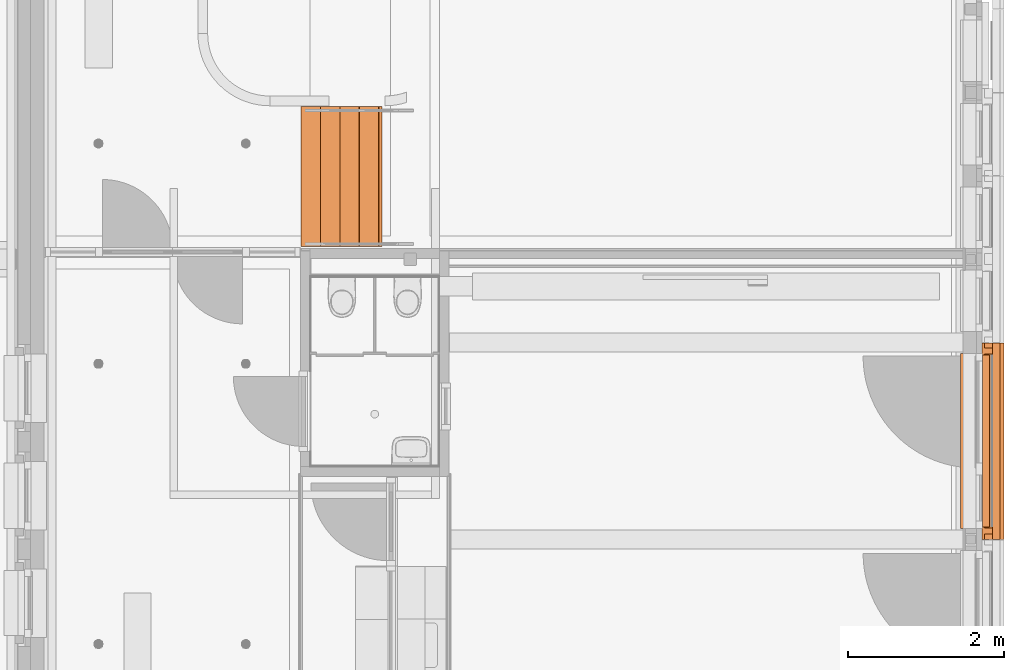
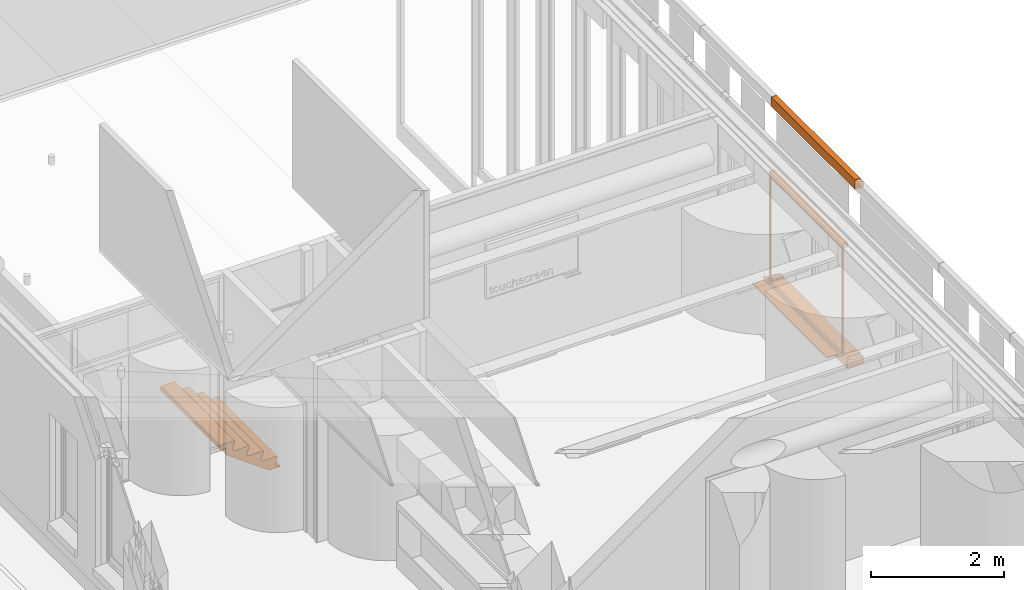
# One storey, part 105 of 128: 5 proxies.
"""IFC2X3 building model written with IfcOpenShell, lengths in millimetres."""

import ifcopenshell
import ifcopenshell.guid

model = None  # the IFC model being written
_history = None  # IfcOwnerHistory: only IFC2X3 demands one
_inside = {}  # id of a spatial element -> (the spatial element, [elements in it])
_under = {}  # id of a project, library or spatial element -> (it, [spatial elements below it])
_declared = {}  # id of a project -> (the project, [libraries it declares])
_typed = {}  # id of a type object -> (the type object, [elements of that type])
_made_of = {}  # id of a material, layer set ... -> (it, [elements and type objects made of it])


def new_model(schema):
    """Start an empty IFC model of exactly this schema.

    Asked for "IFC4X3", IfcOpenShell would pick the latest addendum, in which some entities
    have other attributes; the version numbers below select the first issue.
    IFC2X3 requires an IfcOwnerHistory on every rooted entity: one is made here for all.
    """
    global model, _history
    if schema == "IFC4X3":
        model = ifcopenshell.file(schema_version=(4, 3, 0, 0))
    else:
        model = ifcopenshell.file(schema=schema)
    _inside.clear()
    _under.clear()
    _declared.clear()
    _typed.clear()
    _made_of.clear()
    _history = None
    if model.schema == "IFC2X3":
        org = make("IfcOrganization", Name="unknown")
        user = make(
            "IfcPersonAndOrganization",
            ThePerson=make("IfcPerson", FamilyName="unknown"),
            TheOrganization=org,
        )
        app = make(
            "IfcApplication",
            ApplicationDeveloper=org,
            Version="unknown",
            ApplicationFullName="unknown",
            ApplicationIdentifier="unknown",
        )
        _history = make(
            "IfcOwnerHistory",
            OwningUser=user,
            OwningApplication=app,
            ChangeAction="ADDED",
            CreationDate=0,
        )
    return model


def make(cls, **values):
    """One entity of the class cls with the attributes given. An attribute that is None is left unset."""
    return model.create_entity(
        cls, **{name: value for name, value in values.items() if value is not None}
    )


def entity(cls, *values):
    """Any entity or typed value of the class cls, its attributes in the order of the schema. None: left unset."""
    e = model.create_entity(cls)
    for i, value in enumerate(values):
        if value is not None:
            e[i] = value
    return e


def rooted(cls, **values):
    """An entity with a GlobalId (a new one), such as an element, a storey or a relation."""
    return make(cls, GlobalId=ifcopenshell.guid.new(), OwnerHistory=_history, **values)


def si_unit(unit_type, name, prefix=None):
    """IfcSIUnit, for example si_unit("LENGTHUNIT", "METRE", prefix="MILLI")."""
    return make("IfcSIUnit", UnitType=unit_type, Prefix=prefix, Name=name)


def converted_unit(unit_type, name, factor, base, dimensions=None, offset=None):
    """IfcConversionBasedUnit, such as the inch: factor (a typed value) times the base unit."""
    return make(
        "IfcConversionBasedUnit"
        if offset is None
        else "IfcConversionBasedUnitWithOffset",
        ConversionOffset=offset,
        Dimensions=None
        if dimensions is None
        else entity("IfcDimensionalExponents", *dimensions),
        UnitType=unit_type,
        Name=name,
        ConversionFactor=make(
            "IfcMeasureWithUnit", ValueComponent=factor, UnitComponent=base
        ),
    )


def derived_unit(unit_type, elements):
    """IfcDerivedUnit: a product of units, each with its exponent."""
    return make(
        "IfcDerivedUnit",
        Elements=[
            make("IfcDerivedUnitElement", Unit=unit, Exponent=power)
            for unit, power in elements
        ],
        UnitType=unit_type,
    )


def assignment(units):
    """IfcUnitAssignment: the units of a project."""
    return None if units is None else make("IfcUnitAssignment", Units=units)


def point(xyz):
    """IfcCartesianPoint."""
    return None if xyz is None else make("IfcCartesianPoint", Coordinates=xyz)


def direction(xyz):
    """IfcDirection."""
    return None if xyz is None else make("IfcDirection", DirectionRatios=xyz)


def frame(location, z_axis=None, x_axis=None):
    """IfcAxis2Placement3D, a coordinate frame: its origin and axes. An axis left out is left unset."""
    return make(
        "IfcAxis2Placement3D",
        Location=point(location),
        Axis=direction(z_axis),
        RefDirection=direction(x_axis),
    )


def frame_2d(location, x_axis=None):
    """IfcAxis2Placement2D, a coordinate frame in the plane: its origin and x axis."""
    return make(
        "IfcAxis2Placement2D", Location=point(location), RefDirection=direction(x_axis)
    )


def origin():
    """The frame at (0, 0, 0) with its axes left unset."""
    return frame((0.0, 0.0, 0.0))


def origin_2d_with_axis():
    """The frame at (0, 0) in the plane with the x axis (1, 0) written out."""
    return frame_2d((0.0, 0.0), x_axis=(1.0, 0.0))


def place(relative_to, where):
    """IfcLocalPlacement: puts the frame where relative to a parent placement (None: the world)."""
    return make(
        "IfcLocalPlacement", PlacementRelTo=relative_to, RelativePlacement=where
    )


def context(
    kind, dimensions, precision=None, world=None, true_north=None, identifier=None
):
    """IfcGeometricRepresentationContext, for example the 3D "Model" context."""
    return make(
        "IfcGeometricRepresentationContext",
        ContextIdentifier=identifier,
        ContextType=kind,
        CoordinateSpaceDimension=dimensions,
        Precision=precision,
        WorldCoordinateSystem=world,
        TrueNorth=true_north,
    )


def subcontext(parent, identifier, kind, view, scale=None):
    """IfcGeometricRepresentationSubContext, for example "Body" below "Model"."""
    return make(
        "IfcGeometricRepresentationSubContext",
        ContextIdentifier=identifier,
        ContextType=kind,
        ParentContext=parent,
        TargetScale=scale,
        TargetView=view,
    )


def project(units=None, contexts=None):
    """IfcProject with its units and contexts."""
    return rooted(
        "IfcProject",
        Name="project",
        RepresentationContexts=contexts,
        UnitsInContext=assignment(units),
    )


def spatial(cls, under=None, at=None, **own):
    """A site, building, storey or space (cls), placed at a placement, below another one or the project."""
    s = rooted(cls, ObjectPlacement=at, **own)
    if under is not None:
        _under.setdefault(under.id(), (under, []))[1].append(s)
    return s


def polyline(points):
    """IfcPolyline through the points."""
    return make("IfcPolyline", Points=[point(p) for p in points])


def circle_curve(where, radius):
    """IfcCircle in the frame where."""
    return make("IfcCircle", Position=where, Radius=radius)


def parameter(value):
    """IfcParameterValue: where a trimmed curve begins or ends, as a parameter of its basis curve."""
    return model.create_entity("IfcParameterValue", value)


def trimmed(basis, trim1, trim2, sense, master):
    """IfcTrimmedCurve: the piece of a basis curve between two trims."""
    return make(
        "IfcTrimmedCurve",
        BasisCurve=basis,
        Trim1=trim1,
        Trim2=trim2,
        SenseAgreement=sense,
        MasterRepresentation=master,
    )


def segment(curve, same_sense, transition):
    """IfcCompositeCurveSegment."""
    return make(
        "IfcCompositeCurveSegment",
        Transition=transition,
        SameSense=same_sense,
        ParentCurve=curve,
    )


def composite_curve(segments, self_intersect=None):
    """IfcCompositeCurve: segments joined end to end."""
    return make("IfcCompositeCurve", Segments=segments, SelfIntersect=self_intersect)


def profile(cls, at=None, kind="AREA", **sizes):
    """A parametric profile (cls). Its sizes go by their IFC names, for example OverallWidth=200.0."""
    return make(cls, ProfileType=kind, Position=at, **sizes)


def rectangle(**sizes):
    """IfcRectangleProfileDef."""
    return profile("IfcRectangleProfileDef", **sizes)


def outline(outer, holes=None, kind="AREA"):
    """IfcArbitraryClosedProfileDef: a profile drawn as a closed curve; with holes, ...WithVoids."""
    if holes is None:
        return make("IfcArbitraryClosedProfileDef", ProfileType=kind, OuterCurve=outer)
    return make(
        "IfcArbitraryProfileDefWithVoids",
        ProfileType=kind,
        OuterCurve=outer,
        InnerCurves=holes,
    )


def extrude(swept, where, along, depth):
    """IfcExtrudedAreaSolid: the profile swept, set in the frame where, extruded along a direction by depth."""
    return make(
        "IfcExtrudedAreaSolid",
        SweptArea=swept,
        Position=where,
        ExtrudedDirection=direction(along),
        Depth=depth,
    )


def shape(context_of_items, identifier, shape_type, items):
    """IfcShapeRepresentation: the items that make up one representation, for example the "Body"."""
    return make(
        "IfcShapeRepresentation",
        ContextOfItems=context_of_items,
        RepresentationIdentifier=identifier,
        RepresentationType=shape_type,
        Items=items,
    )


def source(mapping_origin, context_of_items, identifier, shape_type, items):
    """IfcRepresentationMap: a shape defined once, which mapped items show again and again."""
    return make(
        "IfcRepresentationMap",
        MappingOrigin=mapping_origin,
        MappedRepresentation=shape(context_of_items, identifier, shape_type, items),
    )


def transform(
    local_origin,
    x_axis=None,
    y_axis=None,
    z_axis=None,
    scale=None,
    scale2=None,
    scale3=None,
    uniform=True,
):
    """IfcCartesianTransformationOperator3D, or its non-uniform kind. x_axis, y_axis, z_axis: its Axis1, 2, 3."""
    if uniform:
        return make(
            "IfcCartesianTransformationOperator3D",
            Axis1=direction(x_axis),
            Axis2=direction(y_axis),
            LocalOrigin=point(local_origin),
            Scale=scale,
            Axis3=direction(z_axis),
        )
    return make(
        "IfcCartesianTransformationOperator3DnonUniform",
        Axis1=direction(x_axis),
        Axis2=direction(y_axis),
        LocalOrigin=point(local_origin),
        Scale=scale,
        Axis3=direction(z_axis),
        Scale2=scale2,
        Scale3=scale3,
    )


def mapped(mapping_source, mapping_target):
    """IfcMappedItem: shows the shape of a source again, moved by a transform."""
    return make(
        "IfcMappedItem", MappingSource=mapping_source, MappingTarget=mapping_target
    )


def material(Name=None, Category=None):
    """IfcMaterial."""
    return make("IfcMaterial", Name=Name, Category=Category)


def material_list(materials):
    """IfcMaterialList."""
    return make("IfcMaterialList", Materials=materials)


def made_of(thing, what):
    """Note that an element or type object is made of a material, layer set ...; save() writes the relation."""
    if what is not None:
        _made_of.setdefault(what.id(), (what, []))[1].append(thing)
    return thing


def type_object(cls, material=None, **own):
    """A type object (cls), such as IfcWallType, which elements share."""
    return made_of(rooted(cls, **own), material)


def type_shapes(of_type, sources):
    """Give a type object the sources (RepresentationMaps) that its elements show as mapped items."""
    of_type.RepresentationMaps = sources


def element(
    cls,
    number,
    at=None,
    inside=None,
    cuts=None,
    type_object=None,
    material=None,
    context=None,
    identifier="Body",
    shape_type=None,
    held_by="IfcProductDefinitionShape",
    body=None,
    shapes=None,
    **own,
):
    """One element of the class cls, such as IfcWall. Its Tag is "e" and its number.

    at: its placement. inside: the storey or other place that contains it. cuts: it is an
    opening in that element (IfcRelVoidsElement). A single representation is given by context,
    identifier, shape_type and body (its items); several are given by shapes. held_by: the class
    of the entity that holds the representations. save() writes the other relations.
    """
    e = rooted(cls, Tag="e%d" % number, ObjectPlacement=at, **own)
    if body is not None:
        shapes = [shape(context, identifier, shape_type, body)]
    if shapes is not None:
        e.Representation = make(held_by, Representations=shapes)
    if inside is not None:
        _inside.setdefault(inside.id(), (inside, []))[1].append(e)
    if cuts is not None:
        rooted(
            "IfcRelVoidsElement", RelatingBuildingElement=cuts, RelatedOpeningElement=e
        )
    if type_object is not None:
        _typed.setdefault(type_object.id(), (type_object, []))[1].append(e)
    return made_of(e, material)


def aggregate(whole, parts):
    """IfcRelAggregates: a whole, such as a stair, and the parts it consists of."""
    return rooted("IfcRelAggregates", RelatingObject=whole, RelatedObjects=parts)


def save(model, path):
    """Write the relations noted so far, then the file.

    IfcRelAggregates (storeys below a building ...), IfcRelContainedInSpatialStructure (elements
    in a storey), IfcRelDefinesByType, IfcRelAssociatesMaterial and IfcRelDeclares: one each for
    every whole, place, type object, material and project.
    """
    for whole, parts in _under.values():
        aggregate(whole, parts)
    for where, things in _inside.values():
        rooted(
            "IfcRelContainedInSpatialStructure",
            RelatedElements=things,
            RelatingStructure=where,
        )
    for kind, things in _typed.values():
        rooted("IfcRelDefinesByType", RelatedObjects=things, RelatingType=kind)
    for what, things in _made_of.values():
        rooted("IfcRelAssociatesMaterial", RelatedObjects=things, RelatingMaterial=what)
    for by, libraries in _declared.values():
        rooted("IfcRelDeclares", RelatingContext=by, RelatedDefinitions=libraries)
    model.write(path)


model = new_model("IFC2X3")

# Units and contexts
model_context = context("Model", 3, precision=0.01, world=origin(), true_north=direction((6.123031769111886e-17, 1.0)))
body_context = subcontext(model_context, "Body", "Model", "MODEL_VIEW")
ifc_project = project(units=[si_unit("LENGTHUNIT", "METRE", prefix="MILLI"), si_unit("AREAUNIT", "SQUARE_METRE"), si_unit("VOLUMEUNIT", "CUBIC_METRE"), converted_unit("PLANEANGLEUNIT", "DEGREE", entity("IfcRatioMeasure", 0.017453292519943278), si_unit("PLANEANGLEUNIT", "RADIAN"), dimensions=[0, 0, 0, 0, 0, 0, 0]), si_unit("MASSUNIT", "GRAM", prefix="KILO"), derived_unit("MASSDENSITYUNIT", [(si_unit("MASSUNIT", "GRAM", prefix="KILO"), 1), (si_unit("LENGTHUNIT", "METRE"), -3)]), derived_unit("IONCONCENTRATIONUNIT", [(si_unit("MASSUNIT", "GRAM", prefix="KILO"), 1), (si_unit("LENGTHUNIT", "METRE"), -3)]), derived_unit("MOMENTOFINERTIAUNIT", [(si_unit("LENGTHUNIT", "METRE"), 4)]), si_unit("TIMEUNIT", "SECOND"), si_unit("FREQUENCYUNIT", "HERTZ"), si_unit("THERMODYNAMICTEMPERATUREUNIT", "DEGREE_CELSIUS"), derived_unit("THERMALTRANSMITTANCEUNIT", [(si_unit("MASSUNIT", "GRAM", prefix="KILO"), 1), (si_unit("THERMODYNAMICTEMPERATUREUNIT", "KELVIN"), -1), (si_unit("TIMEUNIT", "SECOND"), -3)]), derived_unit("THERMALCONDUCTANCEUNIT", [(si_unit("MASSUNIT", "GRAM", prefix="KILO"), 1), (si_unit("THERMODYNAMICTEMPERATUREUNIT", "KELVIN"), -1), (si_unit("TIMEUNIT", "SECOND"), -3), (si_unit("LENGTHUNIT", "METRE"), 1)]), derived_unit("VOLUMETRICFLOWRATEUNIT", [(si_unit("LENGTHUNIT", "METRE"), 3), (si_unit("TIMEUNIT", "SECOND"), -1)]), derived_unit("MASSFLOWRATEUNIT", [(si_unit("MASSUNIT", "GRAM", prefix="KILO"), 1), (si_unit("TIMEUNIT", "SECOND"), -1)]), derived_unit("ROTATIONALFREQUENCYUNIT", [(si_unit("TIMEUNIT", "SECOND"), -1)]), si_unit("ELECTRICCURRENTUNIT", "AMPERE"), si_unit("ELECTRICVOLTAGEUNIT", "VOLT"), si_unit("POWERUNIT", "WATT"), si_unit("FORCEUNIT", "NEWTON", prefix="KILO"), si_unit("ILLUMINANCEUNIT", "LUX"), si_unit("LUMINOUSFLUXUNIT", "LUMEN"), si_unit("LUMINOUSINTENSITYUNIT", "CANDELA"), derived_unit("USERDEFINED", [(si_unit("MASSUNIT", "GRAM", prefix="KILO"), -1), (si_unit("LENGTHUNIT", "METRE"), -2), (si_unit("TIMEUNIT", "SECOND"), 3), (si_unit("LUMINOUSFLUXUNIT", "LUMEN"), 1)]), derived_unit("USERDEFINED", [(si_unit("MASSUNIT", "GRAM", prefix="KILO"), 1), (si_unit("TIMEUNIT", "SECOND"), -3), (si_unit("LENGTHUNIT", "METRE"), 3), (si_unit("ELECTRICCURRENTUNIT", "AMPERE"), -2)]), derived_unit("SOUNDPOWERUNIT", [(si_unit("MASSUNIT", "GRAM", prefix="KILO"), 1), (si_unit("TIMEUNIT", "SECOND"), -3), (si_unit("LENGTHUNIT", "METRE"), 2)]), derived_unit("SOUNDPRESSUREUNIT", [(si_unit("MASSUNIT", "GRAM", prefix="KILO"), 1), (si_unit("LENGTHUNIT", "METRE"), -1), (si_unit("TIMEUNIT", "SECOND"), -2)]), derived_unit("LINEARVELOCITYUNIT", [(si_unit("LENGTHUNIT", "METRE"), 1), (si_unit("TIMEUNIT", "SECOND"), -1)]), si_unit("PRESSUREUNIT", "PASCAL"), derived_unit("USERDEFINED", [(si_unit("MASSUNIT", "GRAM", prefix="KILO"), 1), (si_unit("LENGTHUNIT", "METRE"), -2), (si_unit("TIMEUNIT", "SECOND"), -2)]), derived_unit("LINEARFORCEUNIT", [(si_unit("MASSUNIT", "GRAM", prefix="KILO"), 1), (si_unit("TIMEUNIT", "SECOND"), -2)]), derived_unit("PLANARFORCEUNIT", [(si_unit("MASSUNIT", "GRAM", prefix="KILO"), 1), (si_unit("LENGTHUNIT", "METRE"), -1), (si_unit("TIMEUNIT", "SECOND"), -2)]), derived_unit("SPECIFICHEATCAPACITYUNIT", [(si_unit("THERMODYNAMICTEMPERATUREUNIT", "KELVIN"), -1), (si_unit("LENGTHUNIT", "METRE"), 2), (si_unit("TIMEUNIT", "SECOND"), -2)]), derived_unit("HEATINGVALUEUNIT", [(si_unit("LENGTHUNIT", "METRE"), 2), (si_unit("TIMEUNIT", "SECOND"), -2)]), derived_unit("VAPORPERMEABILITYUNIT", [(si_unit("LENGTHUNIT", "METRE"), -1), (si_unit("TIMEUNIT", "SECOND"), 1)]), derived_unit("DYNAMICVISCOSITYUNIT", [(si_unit("MASSUNIT", "GRAM", prefix="KILO"), 1), (si_unit("TIMEUNIT", "SECOND"), -1), (si_unit("LENGTHUNIT", "METRE"), -1)]), derived_unit("THERMALEXPANSIONCOEFFICIENTUNIT", [(si_unit("THERMODYNAMICTEMPERATUREUNIT", "KELVIN"), -1)]), derived_unit("MODULUSOFELASTICITYUNIT", [(si_unit("MASSUNIT", "GRAM", prefix="KILO"), 1), (si_unit("LENGTHUNIT", "METRE"), -1), (si_unit("TIMEUNIT", "SECOND"), -2)]), derived_unit("ISOTHERMALMOISTURECAPACITYUNIT", [(si_unit("LENGTHUNIT", "METRE"), 3), (si_unit("MASSUNIT", "GRAM", prefix="KILO"), -1)]), derived_unit("MOISTUREDIFFUSIVITYUNIT", [(si_unit("TIMEUNIT", "SECOND"), -1), (si_unit("LENGTHUNIT", "METRE"), 2)])], contexts=[model_context])

# Site, building, storey, space
site_placement = place(None, frame((0.0, 300.0, 0.0)))
site = spatial("IfcSite", under=ifc_project, at=site_placement, Name="<Kadastrale nummers>", CompositionType="ELEMENT")
building_placement = place(site_placement, origin())
building = spatial("IfcBuilding", under=site, at=building_placement, CompositionType="ELEMENT")
storey_placement = place(building_placement, frame((0.0, 0.0, 3560.0000331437)))
storey = spatial("IfcBuildingStorey", under=building, at=storey_placement, Name="01 eerste verdieping", CompositionType="ELEMENT", Elevation=3560.0000331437)
space_1_placement = place(storey_placement, origin())
space_1 = spatial("IfcSpace", under=storey, at=space_1_placement, Name="1.12", CompositionType="ELEMENT", InteriorOrExteriorSpace="INTERNAL")

# Proxies
ifc_material_1 = material(Name="ISR_Beton_prefab")
ifc_material_2 = material(Name="f2_beton prefab")
ifc_material_list_1 = material_list([ifc_material_1, ifc_material_2])
building_element_proxy_type_1 = type_object("IfcBuildingElementProxyType", Name="NLRS_24_GM_LB_betontrap zonder bomen 04 treden_gen_ASN:betontrap zonder bomen gen b 1100", PredefinedType="NOTDEFINED", material=ifc_material_list_1)
shared_shape_1 = source(origin(), body_context, "Body", "SweptSolid", [
    extrude(outline(composite_curve([segment(polyline([(-106.18149972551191, -65.10260744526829), (-80.76395109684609, -65.10260744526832)]), True, "CONTINUOUS"), segment(trimmed(circle_curve(frame_2d((-80.76395109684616, -55.10260744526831), x_axis=(-0.9168728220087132, -0.3991794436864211)), 10.0), [parameter(66.47310844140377)], [parameter(90.00000000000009)], True, "PARAMETER"), True, "CONTINUOUS"), segment(polyline([(-76.77215665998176, -64.27133566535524), (15.145764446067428, -27.518257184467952)]), True, "CONTINUOUS"), segment(trimmed(circle_curve(frame_2d((28.822905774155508, -65.10260744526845), x_axis=(0.0, 1.0)), 39.995594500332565), [parameter(269.9999999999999)], [parameter(19.99671074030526)], True, "PARAMETER"), False, "CONTINUOUS"), segment(polyline([(68.81850027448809, -65.10260744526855), (68.81850027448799, -105.10260744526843)]), True, "CONTINUOUS"), segment(polyline([(68.81850027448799, -105.10260744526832), (148.8185002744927, -105.1026074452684)]), True, "CONTINUOUS"), segment(polyline([(148.8185002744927, -105.10260744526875), (148.8185002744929, 15.315667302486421)]), True, "CONTINUOUS"), segment(polyline([(148.8185002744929, 15.315667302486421), (98.02384084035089, 84.89739255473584)]), True, "CONTINUOUS"), segment(polyline([(98.02384084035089, 84.89739255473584), (-28.68149972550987, 84.89739255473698)]), True, "CONTINUOUS"), segment(polyline([(-28.68149972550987, 84.89739255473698), (-28.68149972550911, 184.89739255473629)]), True, "CONTINUOUS"), segment(polyline([(-28.68149972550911, 184.89739255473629), (-113.6814997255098, 184.89739255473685)]), True, "CONTINUOUS"), segment(polyline([(-113.6814997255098, 184.89739255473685), (-113.68149972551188, -57.60260744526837)]), True, "CONTINUOUS"), segment(trimmed(circle_curve(frame_2d((-106.181499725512, -57.602607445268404), x_axis=(-1.0, 0.0)), 7.5), [parameter(359.99999999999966)], [parameter(89.99999999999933)], True, "PARAMETER"), True, "CONTINUOUS")], self_intersect=False)), frame((-900.0, 815.1026074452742, 616.3185002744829), z_axis=(1.0, 0.0, 0.0), x_axis=(0.0, 0.0, -1.0)), (0.0, 0.0, 1.0), 1799.9999999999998),
    extrude(outline(composite_curve([segment(polyline([(-97.17951298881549, -66.39601429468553), (-71.76196436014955, -66.39601429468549)]), True, "CONTINUOUS"), segment(trimmed(circle_curve(frame_2d((-71.7619643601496, -56.39601429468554), x_axis=(0.0, 1.0)), 10.0), [parameter(180.0000000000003)], [parameter(203.52689155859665)], True, "PARAMETER"), True, "CONTINUOUS"), segment(polyline([(-67.77016992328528, -65.56474251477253), (24.147751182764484, -28.81166403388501)]), True, "CONTINUOUS"), segment(trimmed(circle_curve(frame_2d((37.82489251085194, -66.39601429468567), x_axis=(0.0, 1.0)), 39.995594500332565), [parameter(269.99999999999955)], [parameter(19.996710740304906)], True, "PARAMETER"), False, "CONTINUOUS"), segment(polyline([(77.82048701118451, -66.39601429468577), (77.82048701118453, -106.39601429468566)]), True, "CONTINUOUS"), segment(polyline([(77.82048701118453, -106.39601429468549), (157.82048701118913, -106.39601429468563)]), True, "CONTINUOUS"), segment(polyline([(157.820487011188, -106.39601429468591), (157.8204870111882, 14.022260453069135)]), True, "CONTINUOUS"), segment(polyline([(157.8204870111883, 14.022260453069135), (-24.679512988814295, 264.0222604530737)]), True, "CONTINUOUS"), segment(polyline([(-24.67951298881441, 264.0222604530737), (-24.679512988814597, 143.60398570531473)]), True, "CONTINUOUS"), segment(polyline([(-24.679512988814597, 143.60398570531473), (-104.67951298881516, 143.6039857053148)]), True, "CONTINUOUS"), segment(polyline([(-104.67951298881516, 143.6039857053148), (-104.67951298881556, -58.896014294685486)]), True, "CONTINUOUS"), segment(trimmed(circle_curve(frame_2d((-97.17951298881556, -58.896014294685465), x_axis=(0.0, 1.0)), 7.5), [parameter(90.00000000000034)], [parameter(179.99999999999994)], True, "PARAMETER"), True, "CONTINUOUS")], self_intersect=False)), frame((-900.0, 566.396014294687, 442.820487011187), z_axis=(1.0, 0.0, 0.0), x_axis=(0.0, 0.0, -1.0)), (0.0, 0.0, 1.0), 1800.0000000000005),
    extrude(outline(composite_curve([segment(polyline([(-97.17951298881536, -66.39601429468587), (-71.76196436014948, -66.39601429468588)]), True, "CONTINUOUS"), segment(trimmed(circle_curve(frame_2d((-71.76196436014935, -56.396014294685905), x_axis=(0.0, 1.0)), 10.0), [parameter(180.0000000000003)], [parameter(203.52689155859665)], True, "PARAMETER"), True, "CONTINUOUS"), segment(polyline([(-67.7701699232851, -65.56474251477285), (24.14775118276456, -28.811664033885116)]), True, "CONTINUOUS"), segment(trimmed(circle_curve(frame_2d((37.824892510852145, -66.39601429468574), x_axis=(0.0, 1.0)), 39.995594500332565), [parameter(269.99999999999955)], [parameter(19.996710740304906)], True, "PARAMETER"), False, "CONTINUOUS"), segment(polyline([(77.82048701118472, -66.39601429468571), (77.82048701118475, -106.39601429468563)]), True, "CONTINUOUS"), segment(polyline([(77.82048701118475, -106.39601429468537), (157.8204870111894, -106.39601429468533)]), True, "CONTINUOUS"), segment(polyline([(157.82048701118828, -106.39601429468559), (157.8204870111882, 14.02226045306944)]), True, "CONTINUOUS"), segment(polyline([(157.82048701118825, 14.02226045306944), (-24.679512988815, 264.0222604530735)]), True, "CONTINUOUS"), segment(polyline([(-24.679512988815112, 264.0222604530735), (-24.679512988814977, 143.60398570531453)]), True, "CONTINUOUS"), segment(polyline([(-24.679512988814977, 143.60398570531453), (-104.67951298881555, 143.60398570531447)]), True, "CONTINUOUS"), segment(polyline([(-104.67951298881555, 143.60398570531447), (-104.67951298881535, -58.89601429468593)]), True, "CONTINUOUS"), segment(trimmed(circle_curve(frame_2d((-97.17951298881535, -58.8960142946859), x_axis=(0.0, 1.0)), 7.5), [parameter(90.00000000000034)], [parameter(179.99999999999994)], True, "PARAMETER"), True, "CONTINUOUS")], self_intersect=False)), frame((-900.0, 316.39601429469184, 260.32048701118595), z_axis=(1.0, 0.0, 0.0), x_axis=(0.0, 0.0, -1.0)), (0.0, 0.0, 1.0), 1800.0000000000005),
    extrude(outline(composite_curve([segment(polyline([(-88.84617965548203, -72.1037768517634), (-63.4286310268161, -72.10377685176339)]), True, "CONTINUOUS"), segment(trimmed(circle_curve(frame_2d((-63.42863102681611, -62.10377685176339), x_axis=(-0.916872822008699, -0.39917944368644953)), 10.0), [parameter(66.47310844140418)], [parameter(90.00000000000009)], True, "PARAMETER"), True, "CONTINUOUS"), segment(polyline([(-59.43683658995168, -71.27250507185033), (32.48108451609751, -34.51942659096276)]), True, "CONTINUOUS"), segment(trimmed(circle_curve(frame_2d((46.158225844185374, -72.1037768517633), x_axis=(0.0, 1.0)), 39.995594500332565), [parameter(269.9999999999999)], [parameter(19.996710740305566)], True, "PARAMETER"), False, "CONTINUOUS"), segment(polyline([(86.15382034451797, -72.1037768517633), (86.15382034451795, -112.10377685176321)]), True, "CONTINUOUS"), segment(polyline([(86.15382034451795, -112.10377685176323), (116.15382034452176, -112.10377685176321)]), True, "CONTINUOUS"), segment(polyline([(116.15382034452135, -112.103776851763), (116.15382034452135, 76.80764858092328)]), True, "CONTINUOUS"), segment(polyline([(116.15382034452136, 76.80764858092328), (-16.34617965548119, 258.3144978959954)]), True, "CONTINUOUS"), segment(polyline([(-16.34617965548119, 258.3144978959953), (-16.346179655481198, 137.89622314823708)]), True, "CONTINUOUS"), segment(polyline([(-16.346179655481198, 137.89622314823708), (-96.34617965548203, 137.89622314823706)]), True, "CONTINUOUS"), segment(polyline([(-96.34617965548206, 137.89622314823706), (-96.34617965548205, -64.60377685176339)]), True, "CONTINUOUS"), segment(trimmed(circle_curve(frame_2d((-88.84617965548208, -64.6037768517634), x_axis=(-1.0, 0.0)), 7.5), [parameter(2.544443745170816e-13)], [parameter(89.99999999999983)], True, "PARAMETER"), True, "CONTINUOUS")], self_intersect=False)), frame((-900.0, 72.10377685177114, 86.15382034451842), z_axis=(1.0, 0.0, 0.0), x_axis=(0.0, 0.0, -1.0)), (0.0, 0.0, 1.0), 1800.0000000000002),
])
type_shapes(building_element_proxy_type_1, [shared_shape_1])
proxy_1_placement = place(space_1_placement, frame((41000.0, 31960.0, -639.9999981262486), z_axis=(0.0, 0.0, 1.0), x_axis=(0.0, 1.0, 0.0)))
element("IfcBuildingElementProxy", 1, at=proxy_1_placement, inside=space_1, type_object=building_element_proxy_type_1, material=ifc_material_list_1, Name="NLRS_24_GM_LB_betontrap zonder bomen 04 treden_gen_ASN:betontrap zonder bomen gen b 1100", ObjectType="NLRS_24_GM_LB_betontrap zonder bomen 04 treden_gen_ASN:betontrap zonder bomen gen b 1100", context=body_context, shape_type="MappedRepresentation", body=[
    mapped(shared_shape_1, transform((0.0, 0.0, 0.0), scale=1.0)),
])
building_element_proxy_type_2 = type_object("IfcBuildingElementProxyType", Name="29_DAT_Prefab betonnen waterslag lang:22", PredefinedType="NOTDEFINED", material=ifc_material_1)
shared_shape_2 = source(origin(), body_context, "Body", "SweptSolid", [
    extrude(outline(polyline([(-16.052237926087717, -115.0), (26.113434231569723, -115.0), (5.9910416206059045, 115.0), (-16.052237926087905, 115.0), (-16.052237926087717, -115.0)])), frame((2377.0, 75.0, -16.05223792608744), z_axis=(1.0, 0.0, 0.0), x_axis=(0.0, 0.0, -1.0)), (0.0, 0.0, 1.0), 79.99999999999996),
    extrude(outline(polyline([(-16.052237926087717, -115.0), (26.113434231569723, -115.0), (5.9910416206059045, 115.0), (-16.052237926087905, 115.0), (-16.052237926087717, -115.0)])), frame((67.0, 75.0, -16.05223792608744), z_axis=(1.0, 0.0, 0.0), x_axis=(0.0, 0.0, -1.0)), (0.0, 0.0, 1.0), 80.00000000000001),
    extrude(outline(composite_curve([segment(polyline([(-140.0, -95.7340207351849), (-110.0, -95.7340207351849)]), True, "CONTINUOUS"), segment(polyline([(-110.0, -95.7340207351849), (-110.0, -73.7340207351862)]), True, "CONTINUOUS"), segment(polyline([(-110.0, -73.7340207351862), (140.0, -51.861854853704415)]), True, "CONTINUOUS"), segment(polyline([(140.0, -51.86185485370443), (140.0, 79.26597926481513)]), True, "CONTINUOUS"), segment(polyline([(140.0, 79.26597926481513), (115.0, 79.26597926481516)]), True, "CONTINUOUS"), segment(trimmed(circle_curve(frame_2d((110.0, 79.26597926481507), x_axis=(1.0, 0.0)), 5.000000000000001), [parameter(179.99999999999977)], [parameter(4.0711099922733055e-13)], True, "PARAMETER"), False, "CONTINUOUS"), segment(polyline([(105.0, 79.26597926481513), (-140.0, 79.26597926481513)]), True, "CONTINUOUS"), segment(polyline([(-140.0, 79.26597926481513), (-140.0, -95.7340207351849)]), True, "CONTINUOUS")], self_intersect=False)), frame((0.0, 80.0, -95.73402073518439), z_axis=(1.0, 0.0, 0.0), x_axis=(0.0, -1.0, 0.0)), (0.0, 0.0, 1.0), 2524.0000000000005),
])
type_shapes(building_element_proxy_type_2, [shared_shape_2])
proxy_2_placement = place(storey_placement, frame((48965.0, 27303.0, 890.0000018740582), z_axis=(0.0, 0.0, 1.0), x_axis=(0.0, 1.0, 0.0)))
element("IfcBuildingElementProxy", 2, at=proxy_2_placement, inside=storey, type_object=building_element_proxy_type_2, material=ifc_material_1, Name="29_DAT_Prefab betonnen waterslag lang:22", ObjectType="29_DAT_Prefab betonnen waterslag lang:22", context=body_context, shape_type="MappedRepresentation", body=[
    mapped(shared_shape_2, transform((0.0, 0.0, 0.0), scale=1.0)),
])
ifc_material_3 = material(Name="STAAL_RAL 7006")
ifc_material_4 = material(Name="<Unnamed>")
ifc_material_list_2 = material_list([ifc_material_3, ifc_material_4])
building_element_proxy_type_3 = type_object("IfcBuildingElementProxyType", Name="31_DAT_Screen_zonwering_bak85:31_DAT_Screen_zonwering_bak85", PredefinedType="NOTDEFINED", material=ifc_material_list_2)
shared_shape_3 = source(origin(), body_context, "Body", "SweptSolid", [
    extrude(outline(polyline([(-60.69864841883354, -53.573897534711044), (20.695945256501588, -53.573897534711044), (20.695945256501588, 1.1216926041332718), (22.501351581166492, 1.1216926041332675), (22.501351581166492, 24.626102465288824), (17.501351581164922, 24.626102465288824), (17.501351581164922, 27.826102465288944), (-60.69864841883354, 27.826102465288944), (-60.69864841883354, -53.573897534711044)])), frame((2208.0, -29.62610246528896, 2752.501351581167), z_axis=(1.0, 0.0, 0.0), x_axis=(0.0, 0.0, -1.0)), (0.0, 0.0, 1.0), 1.999999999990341),
    extrude(outline(polyline([(-55.83243227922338, -51.08259835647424), (29.167567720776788, -51.08259835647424), (29.167567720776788, 5.412991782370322), (27.362161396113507, 5.412991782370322), (27.362161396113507, -49.28259835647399), (-54.032432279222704, -49.28259835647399), (-54.032432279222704, 32.117401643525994), (24.16756772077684, 32.117401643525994), (24.16756772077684, 28.91740164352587), (29.167567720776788, 28.91740164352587), (29.167567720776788, 33.917401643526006), (-55.83243227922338, 33.917401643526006), (-55.83243227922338, -51.08259835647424)])), frame((0.0, -33.917401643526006, 2759.1675677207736), z_axis=(1.0, 0.0, 0.0), x_axis=(0.0, 0.0, -1.0)), (0.0, 0.0, 1.0), 2210.000000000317),
    extrude(outline(polyline([(-60.69864841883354, -53.573897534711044), (20.695945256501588, -53.573897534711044), (20.695945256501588, 1.1216926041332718), (22.501351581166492, 1.1216926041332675), (22.501351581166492, 24.626102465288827), (17.501351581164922, 24.626102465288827), (17.501351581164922, 27.826102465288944), (-60.69864841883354, 27.826102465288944), (-60.69864841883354, -53.573897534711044)])), frame((0.0, -29.62610246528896, 2752.501351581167), z_axis=(1.0, 0.0, 0.0), x_axis=(0.0, 0.0, -1.0)), (0.0, 0.0, 1.0), 1.999999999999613),
    extrude(rectangle(XDim=2170.0000000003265, YDim=1.163311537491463, at=frame_2d((1.1368683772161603e-13, -2.1094237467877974e-15), x_axis=(1.0, 0.0))), frame((1105.0, -20.037293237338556, 2723.857769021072)), (0.0, 0.0, 1.0), 6.142230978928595),
    extrude(outline(composite_curve([segment(polyline([(-7.502327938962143, -23.023758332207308), (7.497672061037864, -23.023758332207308)]), True, "CONTINUOUS"), segment(trimmed(circle_curve(frame_2d((7.497672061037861, -21.523758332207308), x_axis=(0.0, -1.0)), 1.4999999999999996), [parameter(359.99999999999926)], [parameter(90.00000000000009)], True, "PARAMETER"), True, "CONTINUOUS"), segment(polyline([(8.997672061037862, -21.523758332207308), (8.997672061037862, 8.976241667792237)]), True, "CONTINUOUS"), segment(trimmed(circle_curve(frame_2d((5.99767206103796, 8.976241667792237), x_axis=(0.0, -1.0)), 3.0), [parameter(90.00000000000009)], [parameter(172.84454900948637)], True, "PARAMETER"), True, "CONTINUOUS"), segment(polyline([(6.371357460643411, 11.952877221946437), (2.232090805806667, 12.470504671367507)]), True, "CONTINUOUS"), segment(trimmed(circle_curve(frame_2d((2.1399803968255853, 11.733933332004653), x_axis=(0.0, -1.0)), 0.7423083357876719), [parameter(172.87199730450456)], [parameter(323.5235343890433)], True, "PARAMETER"), True, "CONTINUOUS"), segment(trimmed(circle_curve(frame_2d((-0.0023279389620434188, 8.976241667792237), x_axis=(0.0, -1.0)), 2.75), [parameter(217.47327986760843)], [parameter(141.78969998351)], True, "PARAMETER"), False, "CONTINUOUS"), segment(trimmed(circle_curve(frame_2d((-2.144636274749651, 11.733933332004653), x_axis=(0.0, -1.0)), 0.7423083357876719), [parameter(39.207114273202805)], [parameter(187.12800269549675)], True, "PARAMETER"), True, "CONTINUOUS"), segment(polyline([(-2.2367466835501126, 12.470504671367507), (-6.376013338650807, 11.952877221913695)]), True, "CONTINUOUS"), segment(trimmed(circle_curve(frame_2d((-6.002327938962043, 8.976241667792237), x_axis=(0.0, -1.0)), 3.0), [parameter(187.1554509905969)], [parameter(269.9999999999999)], True, "PARAMETER"), True, "CONTINUOUS"), segment(polyline([(-9.002327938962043, 8.976241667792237), (-9.002327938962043, -21.523758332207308)]), True, "CONTINUOUS"), segment(trimmed(circle_curve(frame_2d((-7.502327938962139, -21.523758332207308), x_axis=(0.0, -1.0)), 1.5000000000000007), [parameter(269.9999999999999)], [parameter(359.9999999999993)], True, "PARAMETER"), True, "CONTINUOUS")], self_intersect=False)), frame((20.0, -19.997672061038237, 2716.8815273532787), z_axis=(1.0, 0.0, 0.0), x_axis=(0.0, 1.0, 0.0)), (0.0, 0.0, 1.0), 2170.0000000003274),
    extrude(outline(polyline([(-14.638298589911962, -16.231574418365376), (-13.138298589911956, -16.231574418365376), (-13.138298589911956, 12.23272922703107), (-6.116685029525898, 12.23272922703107), (-6.116685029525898, -6.231574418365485), (-1.1166850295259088, -6.231574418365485), (-1.1166850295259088, -4.769580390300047), (-4.579546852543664, -4.769580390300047), (-4.579546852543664, 12.23272922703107), (13.866111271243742, 12.23272922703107), (13.866111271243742, -4.769580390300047), (10.361701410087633, -4.769580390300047), (10.361701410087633, -6.2315744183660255), (15.36170141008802, -6.2315744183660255), (15.36170141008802, 13.768425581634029), (-14.638298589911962, 13.768425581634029), (-14.638298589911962, -16.231574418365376)])), frame((2196.231574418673, -14.638298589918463, 800.0), z_axis=(0.0, 0.0, 1.0), x_axis=(0.0, -1.0, 0.0)), (0.0, 0.0, 1.0), 1930.000000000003),
    extrude(outline(polyline([(-16.231574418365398, -14.638298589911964), (13.768425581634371, -14.638298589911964), (13.76842558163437, 15.361701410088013), (-6.231574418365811, 15.361701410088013), (-6.231574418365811, 10.361701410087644), (-4.769580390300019, 10.361701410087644), (-4.769580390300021, 13.866111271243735), (12.2327292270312, 13.866111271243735), (12.2327292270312, -4.57954685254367), (-4.769580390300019, -4.57954685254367), (-4.769580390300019, -1.1166850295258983), (-6.231574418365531, -1.1166850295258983), (-6.231574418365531, -6.116685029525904), (12.232729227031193, -6.116685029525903), (12.232729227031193, -13.138298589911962), (-16.231574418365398, -13.138298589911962), (-16.231574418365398, -14.638298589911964)])), frame((13.768425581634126, -14.638298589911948, 800.0), z_axis=(0.0, 0.0, 1.0), x_axis=(-1.0, 0.0, 0.0)), (0.0, 0.0, 1.0), 1930.0000000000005),
])
type_shapes(building_element_proxy_type_3, [shared_shape_3])
proxy_3_placement = place(storey_placement, frame((48751.0, 27460.0, 100.00000187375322), z_axis=(0.0, 0.0, 1.0), x_axis=(0.0, 1.0, 0.0)))
element("IfcBuildingElementProxy", 3, at=proxy_3_placement, inside=storey, type_object=building_element_proxy_type_3, material=ifc_material_list_2, Name="31_DAT_Screen_zonwering_bak85:31_DAT_Screen_zonwering_bak85", ObjectType="31_DAT_Screen_zonwering_bak85:31_DAT_Screen_zonwering_bak85", context=body_context, shape_type="MappedRepresentation", body=[
    mapped(shared_shape_3, transform((0.0, 0.0, 0.0), scale=1.0)),
])
building_element_proxy_type_4 = type_object("IfcBuildingElementProxyType", Name="29_DAT_Prefab betonband afgeschuind:29_DAT_Prefab betonband afgeschuind", PredefinedType="NOTDEFINED", material=ifc_material_1)
shared_shape_4 = source(origin(), body_context, "Body", "SweptSolid", [
    extrude(outline(polyline([(-94.16666666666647, -83.33333333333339), (80.83333333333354, -83.33333333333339), (80.83333333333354, 16.66666666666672), (18.33333333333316, 16.666666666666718), (8.333333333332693, 66.66666666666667), (-94.16666666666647, 66.66666666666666), (-94.16666666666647, -83.33333333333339)])), frame((0.0, 16.66666666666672, -18.33333333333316), z_axis=(1.0, 0.0, 0.0), x_axis=(0.0, 0.0, 1.0)), (0.0, 0.0, 1.0), 2524.0000000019),
])
type_shapes(building_element_proxy_type_4, [shared_shape_4])
proxy_4_placement = place(storey_placement, frame((48975.0, 27303.0, 4077.4999668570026), z_axis=(0.0, 0.0, 1.0), x_axis=(0.0, 1.0, 0.0)))
element("IfcBuildingElementProxy", 4, at=proxy_4_placement, inside=storey, type_object=building_element_proxy_type_4, material=ifc_material_1, Name="29_DAT_Prefab betonband afgeschuind:29_DAT_Prefab betonband afgeschuind", ObjectType="29_DAT_Prefab betonband afgeschuind:29_DAT_Prefab betonband afgeschuind", context=body_context, shape_type="MappedRepresentation", body=[
    mapped(shared_shape_4, transform((0.0, 0.0, 0.0), scale=1.0)),
])

# Space
space_2_placement = place(storey_placement, origin())
space_2 = spatial("IfcSpace", under=storey, at=space_2_placement, Name="1.21", CompositionType="ELEMENT", InteriorOrExteriorSpace="INTERNAL")

# Proxy
ifc_material_5 = material(Name="e1_natuursteen")
building_element_proxy_type_5 = type_object("IfcBuildingElementProxyType", Name="NLRS_31_GM_WPB_vensterbank natuursteen -SH_gen_ASN:200x18", PredefinedType="USERDEFINED", material=ifc_material_5)
shared_shape_5 = source(origin(), body_context, "Body", "SweptSolid", [
    extrude(rectangle(XDim=200.0, YDim=2250.000000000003, at=origin_2d_with_axis()), frame((0.0, -100.0, 0.0), z_axis=(0.0, 0.0, 1.0), x_axis=(0.0, -1.0, 0.0)), (0.0, 0.0, 1.0), 17.999999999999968),
])
type_shapes(building_element_proxy_type_5, [shared_shape_5])
proxy_5_placement = place(space_2_placement, frame((48468.0, 28565.0, 920.0000018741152), z_axis=(0.0, 0.0, 1.0), x_axis=(0.0, 1.0, 0.0)))
element("IfcBuildingElementProxy", 5, at=proxy_5_placement, inside=space_2, type_object=building_element_proxy_type_5, material=ifc_material_5, Name="NLRS_31_GM_WPB_vensterbank natuursteen -SH_gen_ASN:200x18", ObjectType="NLRS_31_GM_WPB_vensterbank natuursteen -SH_gen_ASN:200x18", context=body_context, shape_type="MappedRepresentation", body=[
    mapped(shared_shape_5, transform((0.0, 0.0, 0.0), scale=1.0)),
])

save(model, "model.ifc")
